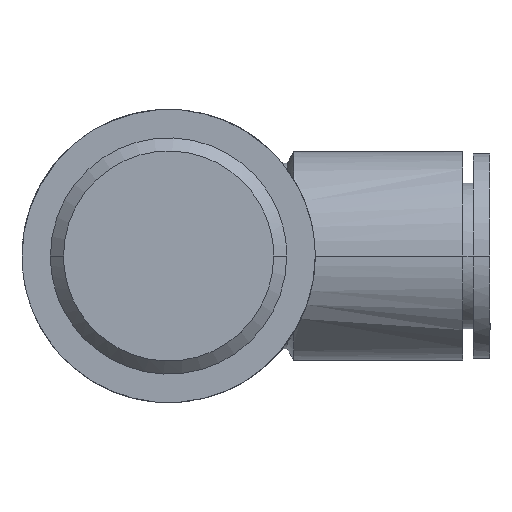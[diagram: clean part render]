
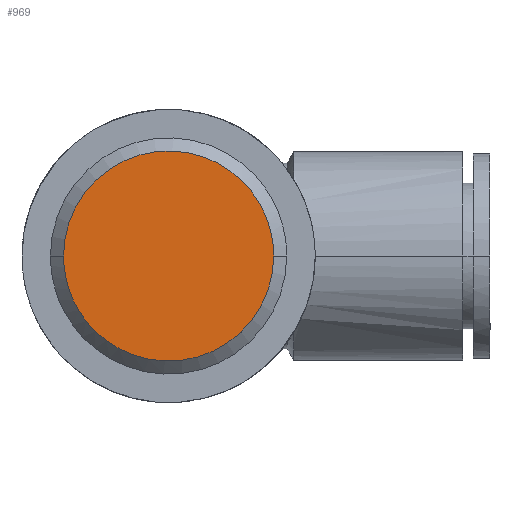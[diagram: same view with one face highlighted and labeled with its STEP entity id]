
A CAD part, front view. The second image highlights one B-rep face of the part: STEP entity #969.
In plain terms, the highlighted planar face has unit normal (0, -1, 0).
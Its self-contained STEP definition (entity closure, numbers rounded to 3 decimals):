
#34 = EDGE_CURVE ( 'NONE', #1761, #737, #1153, .T. ) ;
#171 = CARTESIAN_POINT ( 'NONE',  ( 9.316, -9., 18.631 ) ) ;
#438 = CARTESIAN_POINT ( 'NONE',  ( -9.316, -9., -18.631 ) ) ;
#509 = EDGE_CURVE ( 'NONE', #737, #1761, #583, .T. ) ;
#536 = EDGE_LOOP ( 'NONE', ( #613, #1300 ) ) ;
#583 =( BOUNDED_CURVE ( )  B_SPLINE_CURVE ( 3, ( #1601, #879, #438, #862 ),
 .UNSPECIFIED., .F., .T. ) 
 B_SPLINE_CURVE_WITH_KNOTS ( ( 4, 4 ),
 ( 0.5, 1. ),
 .UNSPECIFIED. ) 
 CURVE ( )  GEOMETRIC_REPRESENTATION_ITEM ( )  RATIONAL_B_SPLINE_CURVE ( ( 1., 0.333, 0.333, 1. ) ) 
 REPRESENTATION_ITEM ( '' )  );
#613 = ORIENTED_EDGE ( 'NONE', *, *, #34, .F. ) ;
#737 = VERTEX_POINT ( 'NONE', #1797 ) ;
#754 = CARTESIAN_POINT ( 'NONE',  ( -9.316, -9., 18.631 ) ) ;
#862 = CARTESIAN_POINT ( 'NONE',  ( -9.316, -9., 0. ) ) ;
#866 = CARTESIAN_POINT ( 'NONE',  ( -9.427, -9., -9.427 ) ) ;
#879 = CARTESIAN_POINT ( 'NONE',  ( 9.316, -9., -18.631 ) ) ;
#969 = ADVANCED_FACE ( 'NONE', ( #1274 ), #1755, .T. ) ;
#1133 = DIRECTION ( 'NONE',  ( 1., 0., 0. ) ) ;
#1153 =( BOUNDED_CURVE ( )  B_SPLINE_CURVE ( 3, ( #1625, #754, #171, #1183 ),
 .UNSPECIFIED., .F., .T. ) 
 B_SPLINE_CURVE_WITH_KNOTS ( ( 4, 4 ),
 ( 0., 0.5 ),
 .UNSPECIFIED. ) 
 CURVE ( )  GEOMETRIC_REPRESENTATION_ITEM ( )  RATIONAL_B_SPLINE_CURVE ( ( 1., 0.333, 0.333, 1. ) ) 
 REPRESENTATION_ITEM ( '' )  );
#1183 = CARTESIAN_POINT ( 'NONE',  ( 9.316, -9., 0. ) ) ;
#1274 = FACE_OUTER_BOUND ( 'NONE', #536, .T. ) ;
#1300 = ORIENTED_EDGE ( 'NONE', *, *, #509, .F. ) ;
#1520 = CARTESIAN_POINT ( 'NONE',  ( -9.316, -9., 0. ) ) ;
#1534 = AXIS2_PLACEMENT_3D ( 'NONE', #866, #1881, #1133 ) ;
#1601 = CARTESIAN_POINT ( 'NONE',  ( 9.316, -9., 0. ) ) ;
#1625 = CARTESIAN_POINT ( 'NONE',  ( -9.316, -9., 0. ) ) ;
#1755 = PLANE ( 'NONE',  #1534 ) ;
#1761 = VERTEX_POINT ( 'NONE', #1520 ) ;
#1797 = CARTESIAN_POINT ( 'NONE',  ( 9.316, -9., 0. ) ) ;
#1881 = DIRECTION ( 'NONE',  ( 0., -1., 0. ) ) ;
